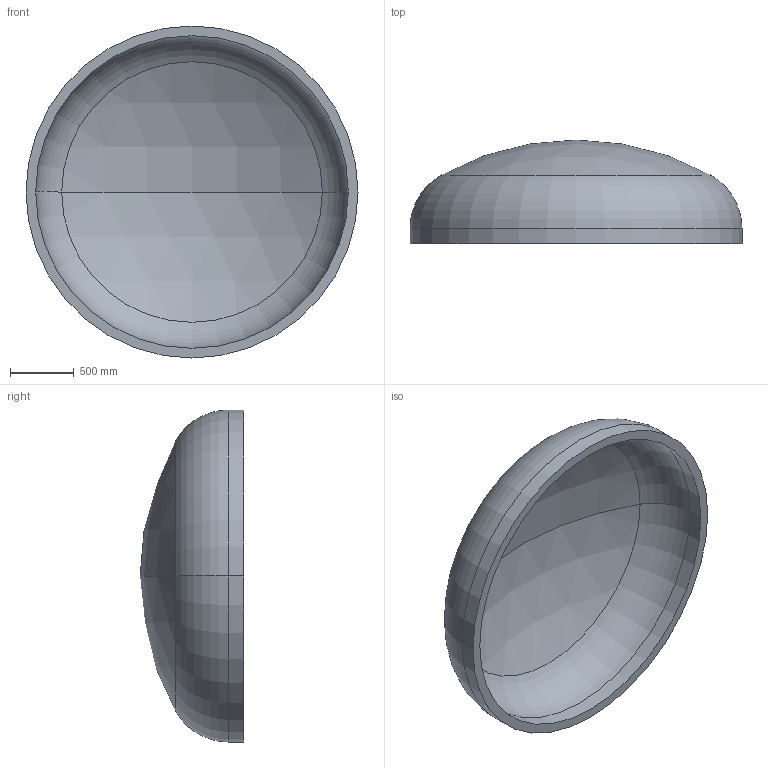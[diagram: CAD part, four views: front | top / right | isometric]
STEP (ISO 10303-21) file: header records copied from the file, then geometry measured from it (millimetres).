
FILE_DESCRIPTION (( 'STEP AP203' ), '1' );
FILE_NAME ('DIN 28013 Korbbogenform_-_Boden DIN 28013 - 2600 x 120 - I - s=76.step', '2016-07-01T16:24:12', ( '' ), ( '' ), 'SwSTEP 2.0', 'SolidWorks 2013', '' );
FILE_SCHEMA (( 'CONFIG_CONTROL_DESIGN' ));
Length unit declared in the file: millimetre
Products named in the file (1): DIN 28013 Korbbogenform_-_Boden DIN 28013 - 2600 x 120 - I - s=76
Bounding box: 2600 x 811.96 x 2600 mm (x, y, z)
Volume: 610106958.1 mm3; surface area: 16670171.3 mm2
Topology: 1 solids, 1 shells, 13 faces, 24 edges, 14 vertices
Faces by surface type: torus 4, cylinder 4, sphere 4, plane 1
Entity records: 407 total; most frequent: DIRECTION 72, CARTESIAN_POINT 52, ORIENTED_EDGE 48, AXIS2_PLACEMENT_3D 34, EDGE_CURVE 24, CIRCLE 20, VERTEX_POINT 14, EDGE_LOOP 14
